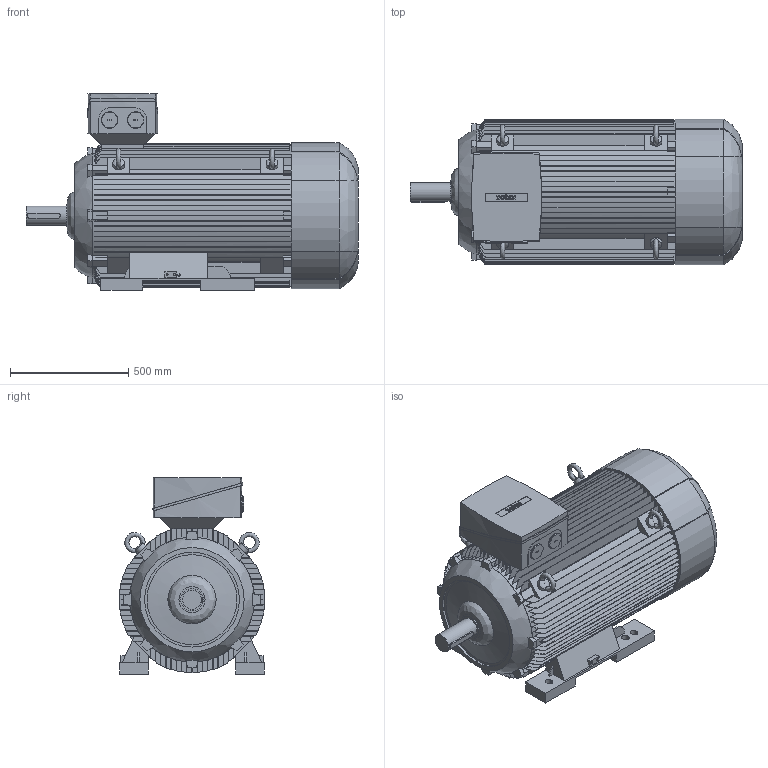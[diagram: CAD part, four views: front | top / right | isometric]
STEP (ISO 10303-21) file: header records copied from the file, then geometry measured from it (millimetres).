
FILE_DESCRIPTION (( 'STEP AP214' ), '1' );
FILE_NAME ('6RN315L04E35 IM1001.STEP', '2016-03-18T09:42:24', ( 'rotor' ), ( 'Hewlett-Packard Company' ), 'SwSTEP 2.0', 'SolidWorks 2012', '' );
FILE_SCHEMA (( 'AUTOMOTIVE_DESIGN' ));
Length unit declared in the file: millimetre
Products named in the file (1): 6RN315L04E35 IM1001
Bounding box: 1402 x 616 x 830 mm (x, y, z)
Volume: 315955565.5 mm3; surface area: 8642840.5 mm2
Topology: 7 solids, 7 shells, 1063 faces, 3045 edges, 2016 vertices
Faces by surface type: plane 699, bspline 199, cylinder 160, cone 5
Full cylindrical faces by diameter (mm): 8 x4, 50 x4, 70 x2, 80 x1, 95 x1, 400 x1
Entity records: 52163 total; most frequent: CARTESIAN_POINT 14989, ORIENTED_EDGE 6006, DIRECTION 4777, EDGE_CURVE 3003, VERTEX_POINT 1999, VECTOR 1853, LINE 1853, AXIS2_PLACEMENT_3D 1462
